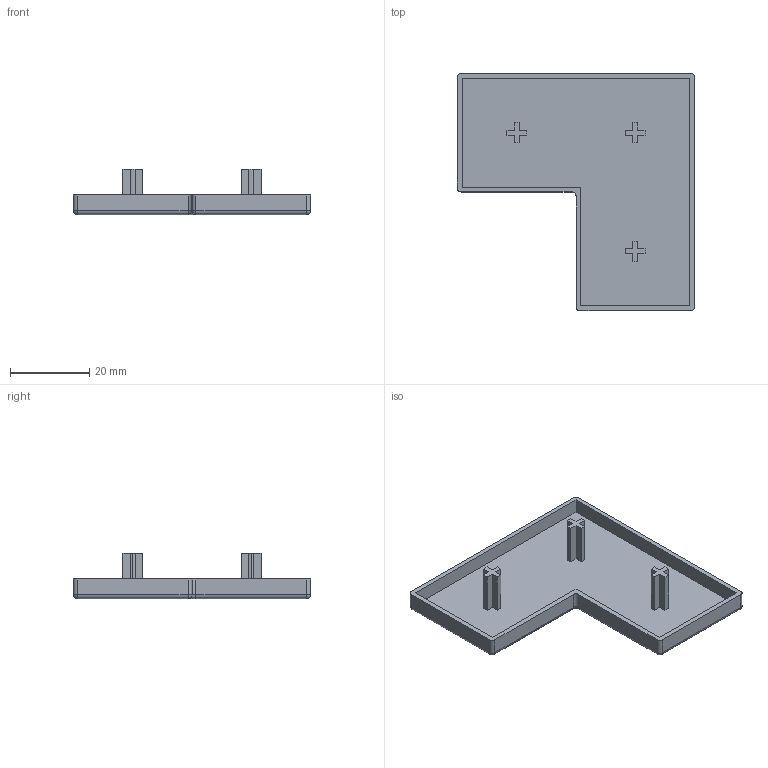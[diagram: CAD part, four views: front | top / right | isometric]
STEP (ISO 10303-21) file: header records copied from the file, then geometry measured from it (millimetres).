
FILE_DESCRIPTION (( 'STEP AP203' ), '1' );
FILE_NAME ('DEC6630.STEP', '2022-06-23T07:01:32', ( '' ), ( '' ), 'SwSTEP 2.0', 'SolidWorks 2017', '' );
FILE_SCHEMA (( 'CONFIG_CONTROL_DESIGN' ));
Length unit declared in the file: millimetre
Products named in the file (1): DEC6630
Bounding box: 60 x 60 x 11.5 mm (x, y, z)
Volume: 4610.6 mm3; surface area: 7969.9 mm2
Topology: 1 solids, 1 shells, 75 faces, 195 edges, 121 vertices
Faces by surface type: plane 42, cylinder 27, sphere 5, torus 1
Entity records: 2320 total; most frequent: DIRECTION 397, CARTESIAN_POINT 387, ORIENTED_EDGE 380, EDGE_CURVE 190, LINE 135, VECTOR 135, AXIS2_PLACEMENT_3D 131, VERTEX_POINT 121
